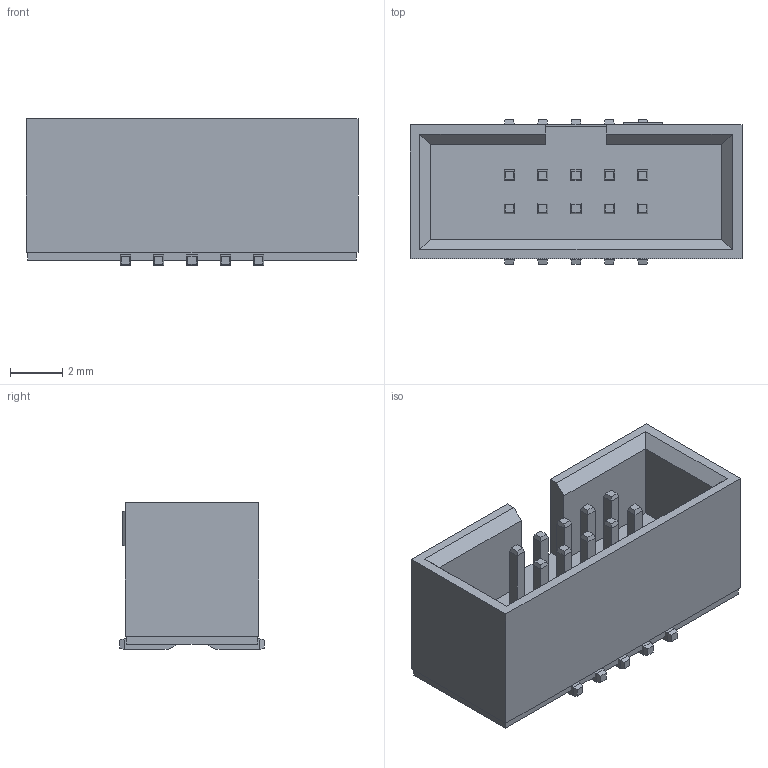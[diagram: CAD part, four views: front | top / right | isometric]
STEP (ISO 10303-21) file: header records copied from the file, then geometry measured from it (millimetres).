
FILE_DESCRIPTION (( 'STEP AP214' ), '1' );
FILE_NAME ('3216-10G00DBU.STEP', '2017-07-27T01:44:33', ( 'admin' ), ( '' ), 'SwSTEP 2.0', 'SolidWorks 2011', '' );
FILE_SCHEMA (( 'AUTOMOTIVE_DESIGN' ));
Length unit declared in the file: millimetre
Products named in the file (3): Contact; housing; 3216-10G00DBU
Assembly tree (11 placements, depth 2):
  3216-10G00DBU
    Contact  x10
    housing
Bounding box: 12.65 x 5.5 x 5.6 mm (x, y, z)
Volume: 211.5 mm3; surface area: 488 mm2
Topology: 21 solids, 21 shells, 230 faces, 554 edges, 368 vertices
Faces by surface type: plane 220, cylinder 10
Entity records: 1627 total; most frequent: CARTESIAN_POINT 266, DIRECTION 252, ORIENTED_EDGE 244, EDGE_CURVE 122, VECTOR 120, LINE 120, VERTEX_POINT 80, AXIS2_PLACEMENT_3D 66
